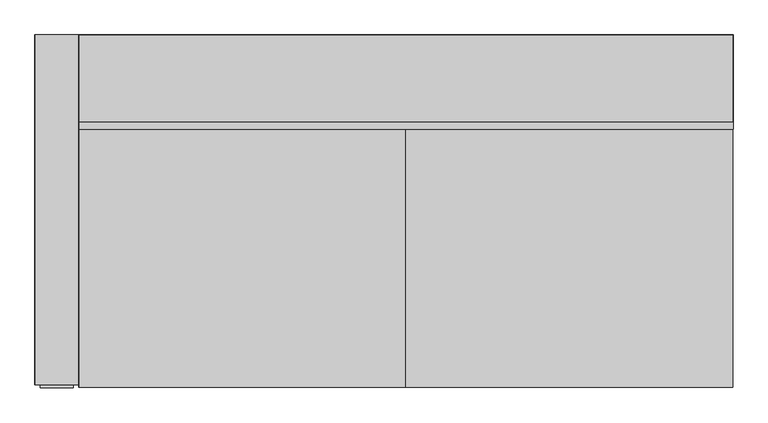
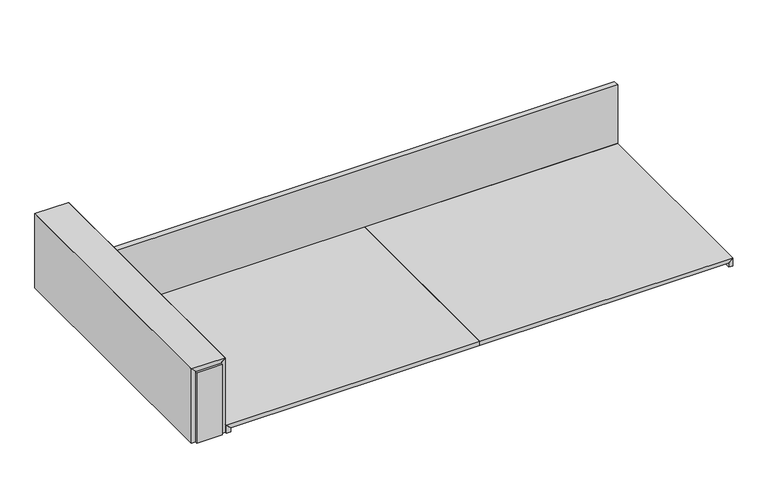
"""IFC4 building model written with IfcOpenShell, lengths in millimetres: proxy geometry, BASYS^OFFICE 2_WALL HUNGS-1.50x48.50x96-FIXED SHELF W LIGHT."""

from ifc_helpers import new_model, si_unit, frame, origin, place, context, project, spatial, polyline, outline, extrude, faceted_brep, source, transform, mapped, element, save


def generic_models_f321ca36(model_context):
    return source(origin(), model_context, "Body", "SolidModel", [
        extrude(outline(polyline([(336.55, 0.0), (317.5, -19.05), (-19.05, -19.05), (-19.05, 0.0), (336.55, 0.0)])), frame((0.0, -1222.375, 0.0), z_axis=(0.0, 1.0, 0.0), x_axis=(0.0, 0.0, 1.0)), (0.0, 0.0, 1.0), 1222.375),
        faceted_brep([(2286.0, 0.0, -19.05), (2286.0, 0.0, 19.05), (2286.0, -330.2, 19.05), (2286.0, -330.2, -19.05), (2266.95, -19.05, 0.0), (2266.95, -330.2, 0.0), (2266.95, -19.05, -19.05), (2266.95, -330.2, -19.05)], [[[0, 1, 2, 3]], [[1, 4, 5, 2]], [[4, 6, 7, 5]], [[6, 0, 3, 7]], [[3, 2, 5, 7]], [[4, 1, 0, 6]]]),
        faceted_brep([(19.05, -19.05, -19.05), (19.05, -19.05, 0.0), (19.05, -330.2, 0.0), (19.05, -330.2, -19.05), (0.0, 0.0, 19.05), (0.0, -330.2, 19.05), (0.0, 0.0, -19.05), (0.0, -330.2, -19.05)], [[[0, 1, 2, 3]], [[1, 4, 5, 2]], [[4, 6, 7, 5]], [[6, 0, 3, 7]], [[3, 2, 5, 7]], [[4, 1, 0, 6]]]),
        extrude(outline(polyline([(2286.0, -330.2), (0.0, -330.2), (0.0, -304.8), (2286.0, -304.8), (2286.0, -330.2)])), frame((0.0, 0.0, 19.05), z_axis=(0.0, 0.0, 1.0), x_axis=(1.0, 0.0, 0.0)), (0.0, 0.0, 1.0), 279.4),
        extrude(outline(polyline([(0.0, 2266.15625), (19.05, 2285.20625), (19.05, 1143.396875), (0.0, 1143.396875), (0.0, 2266.15625)])), frame((0.0, -1231.10625, 0.0), z_axis=(0.0, 1.0, 0.0), x_axis=(0.0, 0.0, 1.0)), (0.0, 0.0, 1.0), 900.1125),
        extrude(outline(polyline([(19.05, 0.79375), (-19.05, 0.79375), (-19.05, 19.84375), (0.0, 19.84375), (19.05, 0.79375)])), frame((0.0, -1231.10625, 0.0), z_axis=(0.0, 1.0, 0.0), x_axis=(0.0, 0.0, 1.0)), (0.0, 0.0, 1.0), 900.1125),
        extrude(outline(polyline([(-19.05, -152.4), (-19.05, -133.35), (317.5, -133.35), (336.55, -152.4), (-19.05, -152.4)])), frame((0.0, -1222.375, 0.0), z_axis=(0.0, 1.0, 0.0), x_axis=(0.0, 0.0, 1.0)), (0.0, 0.0, 1.0), 1222.375),
        extrude(outline(polyline([(-133.35, 0.0), (-19.05, 0.0), (-19.05, -19.05), (-133.35, -19.05), (-133.35, 0.0)])), frame((0.0, 0.0, -19.05), z_axis=(0.0, 0.0, 1.0), x_axis=(1.0, 0.0, 0.0)), (0.0, 0.0, 1.0), 336.55),
        faceted_brep([(0.0, 0.0, -19.05), (19.05, -19.05, -19.05), (19.05, -19.05, 0.0), (0.0, 0.0, 19.05), (2266.95, -19.05, -19.05), (2266.95, -19.05, 0.0), (2286.0, 0.0, -19.05), (2286.0, 0.0, 19.05)], [[[0, 1, 2, 3]], [[2, 1, 4, 5]], [[1, 0, 6, 4]], [[4, 6, 7, 5]], [[0, 3, 7, 6]], [[3, 2, 5, 7]]]),
        extrude(outline(polyline([(-19.05, 2266.15625), (-19.05, 2285.20625), (19.05, 2285.20625), (0.0, 2266.15625), (-19.05, 2266.15625)])), frame((0.0, -1231.10625, 0.0), z_axis=(0.0, 1.0, 0.0), x_axis=(0.0, 0.0, 1.0)), (0.0, 0.0, 1.0), 900.1125),
        extrude(outline(polyline([(19.05, 0.79375), (0.0, 19.84375), (0.0, 1142.603125), (19.05, 1142.603125), (19.05, 0.79375)])), frame((0.0, -1231.10625, 0.0), z_axis=(0.0, 1.0, 0.0), x_axis=(0.0, 0.0, 1.0)), (0.0, 0.0, 1.0), 900.1125),
        faceted_brep([(19.05, -330.2, 0.0), (0.0, -330.2, 19.05), (0.0, 0.0, 19.05), (19.05, -19.05, 0.0), (2266.95, -19.05, 0.0), (2266.95, -330.2, 0.0), (2286.0, 0.0, 19.05), (2286.0, -330.2, 19.05)], [[[0, 1, 2, 3]], [[0, 3, 4, 5]], [[3, 2, 6, 4]], [[4, 6, 7, 5]], [[1, 0, 5, 7]], [[1, 7, 6, 2]]]),
        extrude(outline(polyline([(336.55, -152.4), (260.35, -76.2), (336.55, 0.0), (336.55, -152.4)])), frame((0.0, -1222.375, 0.0), z_axis=(0.0, 1.0, 0.0), x_axis=(0.0, 0.0, 1.0)), (0.0, 0.0, 1.0), 1222.375),
        extrude(outline(polyline([(-19.05, -1231.9), (-133.35, -1231.9), (-133.35, -1203.325), (-19.05, -1203.325), (-19.05, -1231.9)])), frame((0.0, 0.0, -19.05), z_axis=(0.0, 0.0, 1.0), x_axis=(1.0, 0.0, 0.0)), (0.0, 0.0, 1.0), 336.55),
    ])


if __name__ == "__main__":
    model = new_model("IFC4")
    model_context = context("Model", 3, world=origin())
    ifc_project = project(units=[si_unit("LENGTHUNIT", "METRE", prefix="MILLI")], contexts=[model_context])
    site = spatial("IfcSite", under=ifc_project)
    building = spatial("IfcBuilding", under=site)
    placement = place(None, origin())
    generic_models_shape = generic_models_f321ca36(model_context)
    element("IfcBuildingElementProxy", 1, Name="BASYS^OFFICE 2_WALL HUNGS-1.50x48.50x96-FIXED SHELF W LIGHT", ObjectType="BASYS^OFFICE 2_WALL HUNGS-1.50x48.50x96-FIXED SHELF W LIGHT", at=placement, inside=building, context=model_context, shape_type="MappedRepresentation", body=[
        mapped(generic_models_shape, transform((0.0, 0.0, 0.0), x_axis=(1.0, 0.0, 0.0), y_axis=(0.0, 1.0, 0.0), z_axis=(0.0, 0.0, 1.0))),
    ])
    save(model, "model.ifc")
